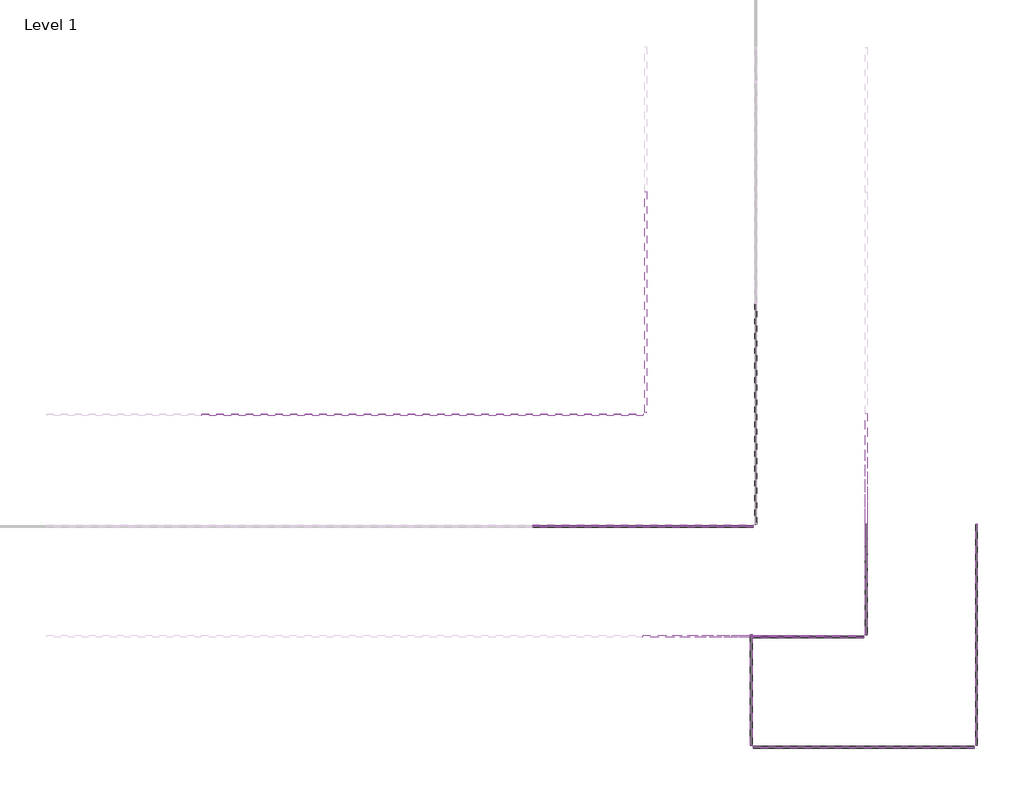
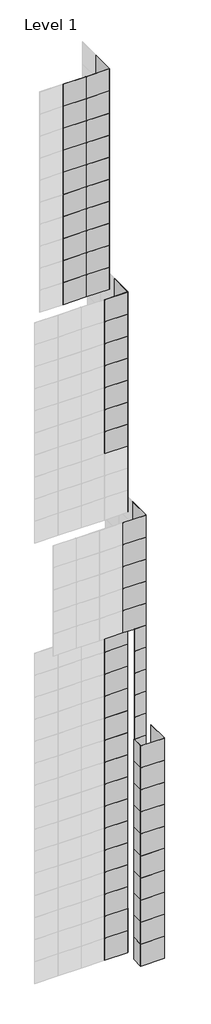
# One storey, part 3 of 15: 134 plates.
"""IFC4 building model written with IfcOpenShell, lengths in millimetres."""

from ifc_helpers import new_model, si_unit, origin, place, context, project, spatial, transform, mapped, element, save
from components import system_panel_glazed_9c75bc08, system_panel_glazed_0a0842ec, system_panel_glazed_aa64d645, system_panel_glazed_b248394d

model = new_model("IFC4")

# Units and contexts
model_context = context("Model", 3, world=origin())
ifc_project = project(units=[si_unit("LENGTHUNIT", "METRE", prefix="MILLI")], contexts=[model_context])

# Site, building, storey
site = spatial("IfcSite", under=ifc_project)
building = spatial("IfcBuilding", under=site)
storey = spatial("IfcBuildingStorey", under=building, Name="Level 1", Elevation=0.0)

# Plates
placement = place(None, origin())
system_panel_glazed_shape = system_panel_glazed_9c75bc08(model_context)
element("IfcPlate", 1, ObjectType="System Panel : Glazed", at=placement, inside=storey, context=model_context, shape_type="MappedRepresentation", body=[
    mapped(system_panel_glazed_shape, transform((-5599.4161695, -4980.0504489, 0.0), x_axis=(0.0, 1.0, 0.0), y_axis=(-1.0, 0.0, 0.0), z_axis=(0.0, 0.0, 1.0))),
])
element("IfcPlate", 2, ObjectType="System Panel : Glazed", at=placement, inside=storey, context=model_context, shape_type="MappedRepresentation", body=[
    mapped(system_panel_glazed_shape, transform((-5599.4161695, -4980.0504489, 3048.0), x_axis=(0.0, 1.0, 0.0), y_axis=(-1.0, 0.0, 0.0), z_axis=(0.0, 0.0, 1.0))),
])
element("IfcPlate", 3, ObjectType="System Panel : Glazed", at=placement, inside=storey, context=model_context, shape_type="MappedRepresentation", body=[
    mapped(system_panel_glazed_shape, transform((-5599.4161695, -4980.0504489, 6096.0), x_axis=(0.0, 1.0, 0.0), y_axis=(-1.0, 0.0, 0.0), z_axis=(0.0, 0.0, 1.0))),
])
element("IfcPlate", 4, ObjectType="System Panel : Glazed", at=placement, inside=storey, context=model_context, shape_type="MappedRepresentation", body=[
    mapped(system_panel_glazed_shape, transform((-5599.4161695, -4980.0504489, 9144.0), x_axis=(0.0, 1.0, 0.0), y_axis=(-1.0, 0.0, 0.0), z_axis=(0.0, 0.0, 1.0))),
])
element("IfcPlate", 5, ObjectType="System Panel : Glazed", at=placement, inside=storey, context=model_context, shape_type="MappedRepresentation", body=[
    mapped(system_panel_glazed_shape, transform((-5599.4161695, -4980.0504489, 12192.0), x_axis=(0.0, 1.0, 0.0), y_axis=(-1.0, 0.0, 0.0), z_axis=(0.0, 0.0, 1.0))),
])
element("IfcPlate", 6, ObjectType="System Panel : Glazed", at=placement, inside=storey, context=model_context, shape_type="MappedRepresentation", body=[
    mapped(system_panel_glazed_shape, transform((-5599.4161695, -4980.0504489, 15240.0), x_axis=(0.0, 1.0, 0.0), y_axis=(-1.0, 0.0, 0.0), z_axis=(0.0, 0.0, 1.0))),
])
element("IfcPlate", 7, ObjectType="System Panel : Glazed", at=placement, inside=storey, context=model_context, shape_type="MappedRepresentation", body=[
    mapped(system_panel_glazed_shape, transform((-5599.4161695, -4980.0504489, 18288.0), x_axis=(0.0, 1.0, 0.0), y_axis=(-1.0, 0.0, 0.0), z_axis=(0.0, 0.0, 1.0))),
])
element("IfcPlate", 8, ObjectType="System Panel : Glazed", at=placement, inside=storey, context=model_context, shape_type="MappedRepresentation", body=[
    mapped(system_panel_glazed_shape, transform((-5599.4161695, -4980.0504489, 21336.0), x_axis=(0.0, 1.0, 0.0), y_axis=(-1.0, 0.0, 0.0), z_axis=(0.0, 0.0, 1.0))),
])
element("IfcPlate", 9, ObjectType="System Panel : Glazed", at=placement, inside=storey, context=model_context, shape_type="MappedRepresentation", body=[
    mapped(system_panel_glazed_shape, transform((-5599.4161695, -4980.0504489, 24384.0), x_axis=(0.0, 1.0, 0.0), y_axis=(-1.0, 0.0, 0.0), z_axis=(0.0, 0.0, 1.0))),
])
element("IfcPlate", 10, ObjectType="System Panel : Glazed", at=placement, inside=storey, context=model_context, shape_type="MappedRepresentation", body=[
    mapped(system_panel_glazed_shape, transform((-5599.4161695, -4980.0504489, 27432.0), x_axis=(0.0, 1.0, 0.0), y_axis=(-1.0, 0.0, 0.0), z_axis=(0.0, 0.0, 1.0))),
])
element("IfcPlate", 11, ObjectType="System Panel : Glazed", at=placement, inside=storey, context=model_context, shape_type="MappedRepresentation", body=[
    mapped(system_panel_glazed_shape, transform((-5599.4161695, -4980.0504489, 30480.0), x_axis=(0.0, 1.0, 0.0), y_axis=(-1.0, 0.0, 0.0), z_axis=(0.0, 0.0, 1.0))),
])
element("IfcPlate", 12, ObjectType="System Panel : Glazed", at=placement, inside=storey, context=model_context, shape_type="MappedRepresentation", body=[
    mapped(system_panel_glazed_shape, transform((-5599.4161695, -4980.0504489, 33528.0), x_axis=(0.0, 1.0, 0.0), y_axis=(-1.0, 0.0, 0.0), z_axis=(0.0, 0.0, 1.0))),
])
element("IfcPlate", 13, ObjectType="System Panel : Glazed", at=placement, inside=storey, context=model_context, shape_type="MappedRepresentation", body=[
    mapped(system_panel_glazed_shape, transform((-5599.4161695, -4980.0504489, 36576.0), x_axis=(0.0, 1.0, 0.0), y_axis=(-1.0, 0.0, 0.0), z_axis=(0.0, 0.0, 1.0))),
])
element("IfcPlate", 14, ObjectType="System Panel : Glazed", at=placement, inside=storey, context=model_context, shape_type="MappedRepresentation", body=[
    mapped(system_panel_glazed_shape, transform((-5599.4161695, -4980.0504489, 39624.0), x_axis=(0.0, 1.0, 0.0), y_axis=(-1.0, 0.0, 0.0), z_axis=(0.0, 0.0, 1.0))),
])
element("IfcPlate", 15, ObjectType="System Panel : Glazed", at=placement, inside=storey, context=model_context, shape_type="MappedRepresentation", body=[
    mapped(system_panel_glazed_shape, transform((-5599.4161695, -4980.0504489, 42672.0), x_axis=(0.0, 1.0, 0.0), y_axis=(-1.0, 0.0, 0.0), z_axis=(0.0, 0.0, 1.0))),
])
element("IfcPlate", 16, ObjectType="System Panel : Glazed", at=placement, inside=storey, context=model_context, shape_type="MappedRepresentation", body=[
    mapped(system_panel_glazed_shape, transform((-6361.4161695, -5742.0504489, 0.0), x_axis=(1.0, 0.0, 0.0), y_axis=(0.0, 1.0, 0.0), z_axis=(0.0, 0.0, 1.0))),
])
element("IfcPlate", 17, ObjectType="System Panel : Glazed", at=placement, inside=storey, context=model_context, shape_type="MappedRepresentation", body=[
    mapped(system_panel_glazed_shape, transform((-6361.4161695, -5742.0504489, 3048.0), x_axis=(1.0, 0.0, 0.0), y_axis=(0.0, 1.0, 0.0), z_axis=(0.0, 0.0, 1.0))),
])
element("IfcPlate", 18, ObjectType="System Panel : Glazed", at=placement, inside=storey, context=model_context, shape_type="MappedRepresentation", body=[
    mapped(system_panel_glazed_shape, transform((-6361.4161695, -5742.0504489, 6096.0), x_axis=(1.0, 0.0, 0.0), y_axis=(0.0, 1.0, 0.0), z_axis=(0.0, 0.0, 1.0))),
])
element("IfcPlate", 19, ObjectType="System Panel : Glazed", at=placement, inside=storey, context=model_context, shape_type="MappedRepresentation", body=[
    mapped(system_panel_glazed_shape, transform((-6361.4161695, -5742.0504489, 9144.0), x_axis=(1.0, 0.0, 0.0), y_axis=(0.0, 1.0, 0.0), z_axis=(0.0, 0.0, 1.0))),
])
element("IfcPlate", 20, ObjectType="System Panel : Glazed", at=placement, inside=storey, context=model_context, shape_type="MappedRepresentation", body=[
    mapped(system_panel_glazed_shape, transform((-6361.4161695, -5742.0504489, 12192.0), x_axis=(1.0, 0.0, 0.0), y_axis=(0.0, 1.0, 0.0), z_axis=(0.0, 0.0, 1.0))),
])
element("IfcPlate", 21, ObjectType="System Panel : Glazed", at=placement, inside=storey, context=model_context, shape_type="MappedRepresentation", body=[
    mapped(system_panel_glazed_shape, transform((-6361.4161695, -5742.0504489, 15240.0), x_axis=(1.0, 0.0, 0.0), y_axis=(0.0, 1.0, 0.0), z_axis=(0.0, 0.0, 1.0))),
])
element("IfcPlate", 22, ObjectType="System Panel : Glazed", at=placement, inside=storey, context=model_context, shape_type="MappedRepresentation", body=[
    mapped(system_panel_glazed_shape, transform((-6361.4161695, -5742.0504489, 18288.0), x_axis=(1.0, 0.0, 0.0), y_axis=(0.0, 1.0, 0.0), z_axis=(0.0, 0.0, 1.0))),
])
element("IfcPlate", 23, ObjectType="System Panel : Glazed", at=placement, inside=storey, context=model_context, shape_type="MappedRepresentation", body=[
    mapped(system_panel_glazed_shape, transform((-6361.4161695, -5742.0504489, 21336.0), x_axis=(1.0, 0.0, 0.0), y_axis=(0.0, 1.0, 0.0), z_axis=(0.0, 0.0, 1.0))),
])
element("IfcPlate", 24, ObjectType="System Panel : Glazed", at=placement, inside=storey, context=model_context, shape_type="MappedRepresentation", body=[
    mapped(system_panel_glazed_shape, transform((-6361.4161695, -5742.0504489, 24384.0), x_axis=(1.0, 0.0, 0.0), y_axis=(0.0, 1.0, 0.0), z_axis=(0.0, 0.0, 1.0))),
])
element("IfcPlate", 25, ObjectType="System Panel : Glazed", at=placement, inside=storey, context=model_context, shape_type="MappedRepresentation", body=[
    mapped(system_panel_glazed_shape, transform((-6361.4161695, -5742.0504489, 27432.0), x_axis=(1.0, 0.0, 0.0), y_axis=(0.0, 1.0, 0.0), z_axis=(0.0, 0.0, 1.0))),
])
element("IfcPlate", 26, ObjectType="System Panel : Glazed", at=placement, inside=storey, context=model_context, shape_type="MappedRepresentation", body=[
    mapped(system_panel_glazed_shape, transform((-6361.4161695, -5742.0504489, 30480.0), x_axis=(1.0, 0.0, 0.0), y_axis=(0.0, 1.0, 0.0), z_axis=(0.0, 0.0, 1.0))),
])
element("IfcPlate", 27, ObjectType="System Panel : Glazed", at=placement, inside=storey, context=model_context, shape_type="MappedRepresentation", body=[
    mapped(system_panel_glazed_shape, transform((-6361.4161695, -5742.0504489, 33528.0), x_axis=(1.0, 0.0, 0.0), y_axis=(0.0, 1.0, 0.0), z_axis=(0.0, 0.0, 1.0))),
])
element("IfcPlate", 28, ObjectType="System Panel : Glazed", at=placement, inside=storey, context=model_context, shape_type="MappedRepresentation", body=[
    mapped(system_panel_glazed_shape, transform((-6361.4161695, -5742.0504489, 36576.0), x_axis=(1.0, 0.0, 0.0), y_axis=(0.0, 1.0, 0.0), z_axis=(0.0, 0.0, 1.0))),
])
element("IfcPlate", 29, ObjectType="System Panel : Glazed", at=placement, inside=storey, context=model_context, shape_type="MappedRepresentation", body=[
    mapped(system_panel_glazed_shape, transform((-6361.4161695, -5742.0504489, 39624.0), x_axis=(1.0, 0.0, 0.0), y_axis=(0.0, 1.0, 0.0), z_axis=(0.0, 0.0, 1.0))),
])
element("IfcPlate", 30, ObjectType="System Panel : Glazed", at=placement, inside=storey, context=model_context, shape_type="MappedRepresentation", body=[
    mapped(system_panel_glazed_shape, transform((-6361.4161695, -5742.0504489, 42672.0), x_axis=(1.0, 0.0, 0.0), y_axis=(0.0, 1.0, 0.0), z_axis=(0.0, 0.0, 1.0))),
])
element("IfcPlate", 31, ObjectType="System Panel : Glazed", at=placement, inside=storey, context=model_context, shape_type="MappedRepresentation", body=[
    mapped(system_panel_glazed_shape, transform((-7123.4161695, -6504.0504489, 0.0), x_axis=(0.0, -1.0, 0.0), y_axis=(1.0, 0.0, 0.0), z_axis=(0.0, 0.0, 1.0))),
])
element("IfcPlate", 32, ObjectType="System Panel : Glazed", at=placement, inside=storey, context=model_context, shape_type="MappedRepresentation", body=[
    mapped(system_panel_glazed_shape, transform((-7123.4161695, -6504.0504489, 3048.0), x_axis=(0.0, -1.0, 0.0), y_axis=(1.0, 0.0, 0.0), z_axis=(0.0, 0.0, 1.0))),
])
element("IfcPlate", 33, ObjectType="System Panel : Glazed", at=placement, inside=storey, context=model_context, shape_type="MappedRepresentation", body=[
    mapped(system_panel_glazed_shape, transform((-7123.4161695, -6504.0504489, 6096.0), x_axis=(0.0, -1.0, 0.0), y_axis=(1.0, 0.0, 0.0), z_axis=(0.0, 0.0, 1.0))),
])
element("IfcPlate", 34, ObjectType="System Panel : Glazed", at=placement, inside=storey, context=model_context, shape_type="MappedRepresentation", body=[
    mapped(system_panel_glazed_shape, transform((-7123.4161695, -6504.0504489, 9144.0), x_axis=(0.0, -1.0, 0.0), y_axis=(1.0, 0.0, 0.0), z_axis=(0.0, 0.0, 1.0))),
])
element("IfcPlate", 35, ObjectType="System Panel : Glazed", at=placement, inside=storey, context=model_context, shape_type="MappedRepresentation", body=[
    mapped(system_panel_glazed_shape, transform((-7123.4161695, -6504.0504489, 12192.0), x_axis=(0.0, -1.0, 0.0), y_axis=(1.0, 0.0, 0.0), z_axis=(0.0, 0.0, 1.0))),
])
element("IfcPlate", 36, ObjectType="System Panel : Glazed", at=placement, inside=storey, context=model_context, shape_type="MappedRepresentation", body=[
    mapped(system_panel_glazed_shape, transform((-7123.4161695, -6504.0504489, 15240.0), x_axis=(0.0, -1.0, 0.0), y_axis=(1.0, 0.0, 0.0), z_axis=(0.0, 0.0, 1.0))),
])
element("IfcPlate", 37, ObjectType="System Panel : Glazed", at=placement, inside=storey, context=model_context, shape_type="MappedRepresentation", body=[
    mapped(system_panel_glazed_shape, transform((-7123.4161695, -6504.0504489, 18288.0), x_axis=(0.0, -1.0, 0.0), y_axis=(1.0, 0.0, 0.0), z_axis=(0.0, 0.0, 1.0))),
])
element("IfcPlate", 38, ObjectType="System Panel : Glazed", at=placement, inside=storey, context=model_context, shape_type="MappedRepresentation", body=[
    mapped(system_panel_glazed_shape, transform((-7123.4161695, -6504.0504489, 21336.0), x_axis=(0.0, -1.0, 0.0), y_axis=(1.0, 0.0, 0.0), z_axis=(0.0, 0.0, 1.0))),
])
element("IfcPlate", 39, ObjectType="System Panel : Glazed", at=placement, inside=storey, context=model_context, shape_type="MappedRepresentation", body=[
    mapped(system_panel_glazed_shape, transform((-7123.4161695, -6504.0504489, 24384.0), x_axis=(0.0, -1.0, 0.0), y_axis=(1.0, 0.0, 0.0), z_axis=(0.0, 0.0, 1.0))),
])
element("IfcPlate", 40, ObjectType="System Panel : Glazed", at=placement, inside=storey, context=model_context, shape_type="MappedRepresentation", body=[
    mapped(system_panel_glazed_shape, transform((-7123.4161695, -6504.0504489, 27432.0), x_axis=(0.0, -1.0, 0.0), y_axis=(1.0, 0.0, 0.0), z_axis=(0.0, 0.0, 1.0))),
])
system_panel_glazed_2_shape = system_panel_glazed_0a0842ec(model_context)
element("IfcPlate", 41, ObjectType="System Panel : Glazed", at=placement, inside=storey, context=model_context, shape_type="MappedRepresentation", body=[
    mapped(system_panel_glazed_2_shape, transform((-5599.4161695, -4218.0504489, 45720.0), x_axis=(0.0, 1.0, 0.0), y_axis=(-1.0, 0.0, 0.0), z_axis=(0.0, 0.0, 1.0))),
])
element("IfcPlate", 42, ObjectType="System Panel : Glazed", at=placement, inside=storey, context=model_context, shape_type="MappedRepresentation", body=[
    mapped(system_panel_glazed_2_shape, transform((-7123.4161695, -5742.0504489, 45720.0), x_axis=(1.0, 0.0, 0.0), y_axis=(0.0, 1.0, 0.0), z_axis=(0.0, 0.0, 1.0))),
])
system_panel_glazed_3_shape = system_panel_glazed_aa64d645(model_context)
element("IfcPlate", 43, ObjectType="System Panel : Glazed", at=placement, inside=storey, context=model_context, shape_type="MappedRepresentation", body=[
    mapped(system_panel_glazed_3_shape, transform((-5599.4161695, -4218.0504489, 48768.0), x_axis=(0.0, 1.0, 0.0), y_axis=(-1.0, 0.0, 0.0), z_axis=(0.0, 0.0, 1.0))),
])
element("IfcPlate", 44, ObjectType="System Panel : Glazed", at=placement, inside=storey, context=model_context, shape_type="MappedRepresentation", body=[
    mapped(system_panel_glazed_3_shape, transform((-5599.4161695, -4218.0504489, 51816.0), x_axis=(0.0, 1.0, 0.0), y_axis=(-1.0, 0.0, 0.0), z_axis=(0.0, 0.0, 1.0))),
])
element("IfcPlate", 45, ObjectType="System Panel : Glazed", at=placement, inside=storey, context=model_context, shape_type="MappedRepresentation", body=[
    mapped(system_panel_glazed_3_shape, transform((-5599.4161695, -4218.0504489, 54864.0), x_axis=(0.0, 1.0, 0.0), y_axis=(-1.0, 0.0, 0.0), z_axis=(0.0, 0.0, 1.0))),
])
element("IfcPlate", 46, ObjectType="System Panel : Glazed", at=placement, inside=storey, context=model_context, shape_type="MappedRepresentation", body=[
    mapped(system_panel_glazed_3_shape, transform((-5599.4161695, -4218.0504489, 57912.0), x_axis=(0.0, 1.0, 0.0), y_axis=(-1.0, 0.0, 0.0), z_axis=(0.0, 0.0, 1.0))),
])
element("IfcPlate", 47, ObjectType="System Panel : Glazed", at=placement, inside=storey, context=model_context, shape_type="MappedRepresentation", body=[
    mapped(system_panel_glazed_3_shape, transform((-7123.4161695, -5742.0504489, 48768.0), x_axis=(1.0, 0.0, 0.0), y_axis=(0.0, 1.0, 0.0), z_axis=(0.0, 0.0, 1.0))),
])
element("IfcPlate", 48, ObjectType="System Panel : Glazed", at=placement, inside=storey, context=model_context, shape_type="MappedRepresentation", body=[
    mapped(system_panel_glazed_3_shape, transform((-7123.4161695, -5742.0504489, 51816.0), x_axis=(1.0, 0.0, 0.0), y_axis=(0.0, 1.0, 0.0), z_axis=(0.0, 0.0, 1.0))),
])
element("IfcPlate", 49, ObjectType="System Panel : Glazed", at=placement, inside=storey, context=model_context, shape_type="MappedRepresentation", body=[
    mapped(system_panel_glazed_3_shape, transform((-7123.4161695, -5742.0504489, 54864.0), x_axis=(1.0, 0.0, 0.0), y_axis=(0.0, 1.0, 0.0), z_axis=(0.0, 0.0, 1.0))),
])
element("IfcPlate", 50, ObjectType="System Panel : Glazed", at=placement, inside=storey, context=model_context, shape_type="MappedRepresentation", body=[
    mapped(system_panel_glazed_3_shape, transform((-7123.4161695, -5742.0504489, 57912.0), x_axis=(1.0, 0.0, 0.0), y_axis=(0.0, 1.0, 0.0), z_axis=(0.0, 0.0, 1.0))),
])
element("IfcPlate", 51, ObjectType="System Panel : Glazed", at=placement, inside=storey, context=model_context, shape_type="MappedRepresentation", body=[
    mapped(system_panel_glazed_3_shape, transform((-7123.4161695, -2694.0504489, 60960.0), x_axis=(0.0, 1.0, 0.0), y_axis=(-1.0, 0.0, 0.0), z_axis=(0.0, 0.0, 1.0))),
])
element("IfcPlate", 52, ObjectType="System Panel : Glazed", at=placement, inside=storey, context=model_context, shape_type="MappedRepresentation", body=[
    mapped(system_panel_glazed_3_shape, transform((-7123.4161695, -2694.0504489, 64008.0), x_axis=(0.0, 1.0, 0.0), y_axis=(-1.0, 0.0, 0.0), z_axis=(0.0, 0.0, 1.0))),
])
element("IfcPlate", 53, ObjectType="System Panel : Glazed", at=placement, inside=storey, context=model_context, shape_type="MappedRepresentation", body=[
    mapped(system_panel_glazed_3_shape, transform((-7123.4161695, -2694.0504489, 67056.0), x_axis=(0.0, 1.0, 0.0), y_axis=(-1.0, 0.0, 0.0), z_axis=(0.0, 0.0, 1.0))),
])
element("IfcPlate", 54, ObjectType="System Panel : Glazed", at=placement, inside=storey, context=model_context, shape_type="MappedRepresentation", body=[
    mapped(system_panel_glazed_3_shape, transform((-7123.4161695, -2694.0504489, 70104.0), x_axis=(0.0, 1.0, 0.0), y_axis=(-1.0, 0.0, 0.0), z_axis=(0.0, 0.0, 1.0))),
])
element("IfcPlate", 55, ObjectType="System Panel : Glazed", at=placement, inside=storey, context=model_context, shape_type="MappedRepresentation", body=[
    mapped(system_panel_glazed_3_shape, transform((-7123.4161695, -2694.0504489, 73152.0), x_axis=(0.0, 1.0, 0.0), y_axis=(-1.0, 0.0, 0.0), z_axis=(0.0, 0.0, 1.0))),
])
element("IfcPlate", 56, ObjectType="System Panel : Glazed", at=placement, inside=storey, context=model_context, shape_type="MappedRepresentation", body=[
    mapped(system_panel_glazed_3_shape, transform((-7123.4161695, -2694.0504489, 76200.0), x_axis=(0.0, 1.0, 0.0), y_axis=(-1.0, 0.0, 0.0), z_axis=(0.0, 0.0, 1.0))),
])
element("IfcPlate", 57, ObjectType="System Panel : Glazed", at=placement, inside=storey, context=model_context, shape_type="MappedRepresentation", body=[
    mapped(system_panel_glazed_3_shape, transform((-7123.4161695, -2694.0504489, 79248.0), x_axis=(0.0, 1.0, 0.0), y_axis=(-1.0, 0.0, 0.0), z_axis=(0.0, 0.0, 1.0))),
])
element("IfcPlate", 58, ObjectType="System Panel : Glazed", at=placement, inside=storey, context=model_context, shape_type="MappedRepresentation", body=[
    mapped(system_panel_glazed_3_shape, transform((-7123.4161695, -2694.0504489, 82296.0), x_axis=(0.0, 1.0, 0.0), y_axis=(-1.0, 0.0, 0.0), z_axis=(0.0, 0.0, 1.0))),
])
element("IfcPlate", 59, ObjectType="System Panel : Glazed", at=placement, inside=storey, context=model_context, shape_type="MappedRepresentation", body=[
    mapped(system_panel_glazed_3_shape, transform((-7123.4161695, -2694.0504489, 85344.0), x_axis=(0.0, 1.0, 0.0), y_axis=(-1.0, 0.0, 0.0), z_axis=(0.0, 0.0, 1.0))),
])
element("IfcPlate", 60, ObjectType="System Panel : Glazed", at=placement, inside=storey, context=model_context, shape_type="MappedRepresentation", body=[
    mapped(system_panel_glazed_3_shape, transform((-7123.4161695, -2694.0504489, 88392.0), x_axis=(0.0, 1.0, 0.0), y_axis=(-1.0, 0.0, 0.0), z_axis=(0.0, 0.0, 1.0))),
])
element("IfcPlate", 61, ObjectType="System Panel : Glazed", at=placement, inside=storey, context=model_context, shape_type="MappedRepresentation", body=[
    mapped(system_panel_glazed_3_shape, transform((-8647.4161695, -4218.0504489, 70104.0), x_axis=(1.0, 0.0, 0.0), y_axis=(0.0, 1.0, 0.0), z_axis=(0.0, 0.0, 1.0))),
])
element("IfcPlate", 62, ObjectType="System Panel : Glazed", at=placement, inside=storey, context=model_context, shape_type="MappedRepresentation", body=[
    mapped(system_panel_glazed_3_shape, transform((-8647.4161695, -4218.0504489, 73152.0), x_axis=(1.0, 0.0, 0.0), y_axis=(0.0, 1.0, 0.0), z_axis=(0.0, 0.0, 1.0))),
])
element("IfcPlate", 63, ObjectType="System Panel : Glazed", at=placement, inside=storey, context=model_context, shape_type="MappedRepresentation", body=[
    mapped(system_panel_glazed_3_shape, transform((-8647.4161695, -4218.0504489, 76200.0), x_axis=(1.0, 0.0, 0.0), y_axis=(0.0, 1.0, 0.0), z_axis=(0.0, 0.0, 1.0))),
])
element("IfcPlate", 64, ObjectType="System Panel : Glazed", at=placement, inside=storey, context=model_context, shape_type="MappedRepresentation", body=[
    mapped(system_panel_glazed_3_shape, transform((-8647.4161695, -4218.0504489, 79248.0), x_axis=(1.0, 0.0, 0.0), y_axis=(0.0, 1.0, 0.0), z_axis=(0.0, 0.0, 1.0))),
])
element("IfcPlate", 65, ObjectType="System Panel : Glazed", at=placement, inside=storey, context=model_context, shape_type="MappedRepresentation", body=[
    mapped(system_panel_glazed_3_shape, transform((-8647.4161695, -4218.0504489, 82296.0), x_axis=(1.0, 0.0, 0.0), y_axis=(0.0, 1.0, 0.0), z_axis=(0.0, 0.0, 1.0))),
])
element("IfcPlate", 66, ObjectType="System Panel : Glazed", at=placement, inside=storey, context=model_context, shape_type="MappedRepresentation", body=[
    mapped(system_panel_glazed_3_shape, transform((-8647.4161695, -4218.0504489, 85344.0), x_axis=(1.0, 0.0, 0.0), y_axis=(0.0, 1.0, 0.0), z_axis=(0.0, 0.0, 1.0))),
])
element("IfcPlate", 67, ObjectType="System Panel : Glazed", at=placement, inside=storey, context=model_context, shape_type="MappedRepresentation", body=[
    mapped(system_panel_glazed_3_shape, transform((-8647.4161695, -4218.0504489, 88392.0), x_axis=(1.0, 0.0, 0.0), y_axis=(0.0, 1.0, 0.0), z_axis=(0.0, 0.0, 1.0))),
])
element("IfcPlate", 68, ObjectType="System Panel : Glazed", at=placement, inside=storey, context=model_context, shape_type="MappedRepresentation", body=[
    mapped(system_panel_glazed_3_shape, transform((-8641.8488996, -1170.0504489, 91440.0), x_axis=(0.0, 1.0, 0.0), y_axis=(-1.0, 0.0, 0.0), z_axis=(0.0, 0.0, 1.0))),
])
element("IfcPlate", 69, ObjectType="System Panel : Glazed", at=placement, inside=storey, context=model_context, shape_type="MappedRepresentation", body=[
    mapped(system_panel_glazed_3_shape, transform((-8641.8488996, -1170.0504489, 94488.0), x_axis=(0.0, 1.0, 0.0), y_axis=(-1.0, 0.0, 0.0), z_axis=(0.0, 0.0, 1.0))),
])
element("IfcPlate", 70, ObjectType="System Panel : Glazed", at=placement, inside=storey, context=model_context, shape_type="MappedRepresentation", body=[
    mapped(system_panel_glazed_3_shape, transform((-8641.8488996, -1170.0504489, 97536.0), x_axis=(0.0, 1.0, 0.0), y_axis=(-1.0, 0.0, 0.0), z_axis=(0.0, 0.0, 1.0))),
])
element("IfcPlate", 71, ObjectType="System Panel : Glazed", at=placement, inside=storey, context=model_context, shape_type="MappedRepresentation", body=[
    mapped(system_panel_glazed_3_shape, transform((-8641.8488996, -1170.0504489, 100584.0), x_axis=(0.0, 1.0, 0.0), y_axis=(-1.0, 0.0, 0.0), z_axis=(0.0, 0.0, 1.0))),
])
element("IfcPlate", 72, ObjectType="System Panel : Glazed", at=placement, inside=storey, context=model_context, shape_type="MappedRepresentation", body=[
    mapped(system_panel_glazed_3_shape, transform((-8641.8488996, -1170.0504489, 103632.0), x_axis=(0.0, 1.0, 0.0), y_axis=(-1.0, 0.0, 0.0), z_axis=(0.0, 0.0, 1.0))),
])
element("IfcPlate", 73, ObjectType="System Panel : Glazed", at=placement, inside=storey, context=model_context, shape_type="MappedRepresentation", body=[
    mapped(system_panel_glazed_3_shape, transform((-8641.8488996, -1170.0504489, 106680.0), x_axis=(0.0, 1.0, 0.0), y_axis=(-1.0, 0.0, 0.0), z_axis=(0.0, 0.0, 1.0))),
])
element("IfcPlate", 74, ObjectType="System Panel : Glazed", at=placement, inside=storey, context=model_context, shape_type="MappedRepresentation", body=[
    mapped(system_panel_glazed_3_shape, transform((-8641.8488996, -1170.0504489, 109728.0), x_axis=(0.0, 1.0, 0.0), y_axis=(-1.0, 0.0, 0.0), z_axis=(0.0, 0.0, 1.0))),
])
element("IfcPlate", 75, ObjectType="System Panel : Glazed", at=placement, inside=storey, context=model_context, shape_type="MappedRepresentation", body=[
    mapped(system_panel_glazed_3_shape, transform((-8641.8488996, -1170.0504489, 112776.0), x_axis=(0.0, 1.0, 0.0), y_axis=(-1.0, 0.0, 0.0), z_axis=(0.0, 0.0, 1.0))),
])
element("IfcPlate", 76, ObjectType="System Panel : Glazed", at=placement, inside=storey, context=model_context, shape_type="MappedRepresentation", body=[
    mapped(system_panel_glazed_3_shape, transform((-8641.8488996, -1170.0504489, 115824.0), x_axis=(0.0, 1.0, 0.0), y_axis=(-1.0, 0.0, 0.0), z_axis=(0.0, 0.0, 1.0))),
])
element("IfcPlate", 77, ObjectType="System Panel : Glazed", at=placement, inside=storey, context=model_context, shape_type="MappedRepresentation", body=[
    mapped(system_panel_glazed_3_shape, transform((-8641.8488996, -1170.0504489, 118872.0), x_axis=(0.0, 1.0, 0.0), y_axis=(-1.0, 0.0, 0.0), z_axis=(0.0, 0.0, 1.0))),
])
element("IfcPlate", 78, ObjectType="System Panel : Glazed", at=placement, inside=storey, context=model_context, shape_type="MappedRepresentation", body=[
    mapped(system_panel_glazed_3_shape, transform((-13213.8488996, -2694.0504489, 91440.0), x_axis=(1.0, 0.0, 0.0), y_axis=(0.0, 1.0, 0.0), z_axis=(0.0, 0.0, 1.0))),
])
element("IfcPlate", 79, ObjectType="System Panel : Glazed", at=placement, inside=storey, context=model_context, shape_type="MappedRepresentation", body=[
    mapped(system_panel_glazed_3_shape, transform((-10165.8488996, -2694.0504489, 91440.0), x_axis=(1.0, 0.0, 0.0), y_axis=(0.0, 1.0, 0.0), z_axis=(0.0, 0.0, 1.0))),
])
element("IfcPlate", 80, ObjectType="System Panel : Glazed", at=placement, inside=storey, context=model_context, shape_type="MappedRepresentation", body=[
    mapped(system_panel_glazed_3_shape, transform((-13213.8488996, -2694.0504489, 94488.0), x_axis=(1.0, 0.0, 0.0), y_axis=(0.0, 1.0, 0.0), z_axis=(0.0, 0.0, 1.0))),
])
element("IfcPlate", 81, ObjectType="System Panel : Glazed", at=placement, inside=storey, context=model_context, shape_type="MappedRepresentation", body=[
    mapped(system_panel_glazed_3_shape, transform((-10165.8488996, -2694.0504489, 94488.0), x_axis=(1.0, 0.0, 0.0), y_axis=(0.0, 1.0, 0.0), z_axis=(0.0, 0.0, 1.0))),
])
element("IfcPlate", 82, ObjectType="System Panel : Glazed", at=placement, inside=storey, context=model_context, shape_type="MappedRepresentation", body=[
    mapped(system_panel_glazed_3_shape, transform((-13213.8488996, -2694.0504489, 97536.0), x_axis=(1.0, 0.0, 0.0), y_axis=(0.0, 1.0, 0.0), z_axis=(0.0, 0.0, 1.0))),
])
element("IfcPlate", 83, ObjectType="System Panel : Glazed", at=placement, inside=storey, context=model_context, shape_type="MappedRepresentation", body=[
    mapped(system_panel_glazed_3_shape, transform((-10165.8488996, -2694.0504489, 97536.0), x_axis=(1.0, 0.0, 0.0), y_axis=(0.0, 1.0, 0.0), z_axis=(0.0, 0.0, 1.0))),
])
element("IfcPlate", 84, ObjectType="System Panel : Glazed", at=placement, inside=storey, context=model_context, shape_type="MappedRepresentation", body=[
    mapped(system_panel_glazed_3_shape, transform((-13213.8488996, -2694.0504489, 100584.0), x_axis=(1.0, 0.0, 0.0), y_axis=(0.0, 1.0, 0.0), z_axis=(0.0, 0.0, 1.0))),
])
element("IfcPlate", 85, ObjectType="System Panel : Glazed", at=placement, inside=storey, context=model_context, shape_type="MappedRepresentation", body=[
    mapped(system_panel_glazed_3_shape, transform((-10165.8488996, -2694.0504489, 100584.0), x_axis=(1.0, 0.0, 0.0), y_axis=(0.0, 1.0, 0.0), z_axis=(0.0, 0.0, 1.0))),
])
element("IfcPlate", 86, ObjectType="System Panel : Glazed", at=placement, inside=storey, context=model_context, shape_type="MappedRepresentation", body=[
    mapped(system_panel_glazed_3_shape, transform((-13213.8488996, -2694.0504489, 103632.0), x_axis=(1.0, 0.0, 0.0), y_axis=(0.0, 1.0, 0.0), z_axis=(0.0, 0.0, 1.0))),
])
element("IfcPlate", 87, ObjectType="System Panel : Glazed", at=placement, inside=storey, context=model_context, shape_type="MappedRepresentation", body=[
    mapped(system_panel_glazed_3_shape, transform((-10165.8488996, -2694.0504489, 103632.0), x_axis=(1.0, 0.0, 0.0), y_axis=(0.0, 1.0, 0.0), z_axis=(0.0, 0.0, 1.0))),
])
element("IfcPlate", 88, ObjectType="System Panel : Glazed", at=placement, inside=storey, context=model_context, shape_type="MappedRepresentation", body=[
    mapped(system_panel_glazed_3_shape, transform((-13213.8488996, -2694.0504489, 106680.0), x_axis=(1.0, 0.0, 0.0), y_axis=(0.0, 1.0, 0.0), z_axis=(0.0, 0.0, 1.0))),
])
element("IfcPlate", 89, ObjectType="System Panel : Glazed", at=placement, inside=storey, context=model_context, shape_type="MappedRepresentation", body=[
    mapped(system_panel_glazed_3_shape, transform((-10165.8488996, -2694.0504489, 106680.0), x_axis=(1.0, 0.0, 0.0), y_axis=(0.0, 1.0, 0.0), z_axis=(0.0, 0.0, 1.0))),
])
element("IfcPlate", 90, ObjectType="System Panel : Glazed", at=placement, inside=storey, context=model_context, shape_type="MappedRepresentation", body=[
    mapped(system_panel_glazed_3_shape, transform((-13213.8488996, -2694.0504489, 109728.0), x_axis=(1.0, 0.0, 0.0), y_axis=(0.0, 1.0, 0.0), z_axis=(0.0, 0.0, 1.0))),
])
element("IfcPlate", 91, ObjectType="System Panel : Glazed", at=placement, inside=storey, context=model_context, shape_type="MappedRepresentation", body=[
    mapped(system_panel_glazed_3_shape, transform((-10165.8488996, -2694.0504489, 109728.0), x_axis=(1.0, 0.0, 0.0), y_axis=(0.0, 1.0, 0.0), z_axis=(0.0, 0.0, 1.0))),
])
element("IfcPlate", 92, ObjectType="System Panel : Glazed", at=placement, inside=storey, context=model_context, shape_type="MappedRepresentation", body=[
    mapped(system_panel_glazed_3_shape, transform((-13213.8488996, -2694.0504489, 112776.0), x_axis=(1.0, 0.0, 0.0), y_axis=(0.0, 1.0, 0.0), z_axis=(0.0, 0.0, 1.0))),
])
element("IfcPlate", 93, ObjectType="System Panel : Glazed", at=placement, inside=storey, context=model_context, shape_type="MappedRepresentation", body=[
    mapped(system_panel_glazed_3_shape, transform((-10165.8488996, -2694.0504489, 112776.0), x_axis=(1.0, 0.0, 0.0), y_axis=(0.0, 1.0, 0.0), z_axis=(0.0, 0.0, 1.0))),
])
element("IfcPlate", 94, ObjectType="System Panel : Glazed", at=placement, inside=storey, context=model_context, shape_type="MappedRepresentation", body=[
    mapped(system_panel_glazed_3_shape, transform((-13213.8488996, -2694.0504489, 115824.0), x_axis=(1.0, 0.0, 0.0), y_axis=(0.0, 1.0, 0.0), z_axis=(0.0, 0.0, 1.0))),
])
element("IfcPlate", 95, ObjectType="System Panel : Glazed", at=placement, inside=storey, context=model_context, shape_type="MappedRepresentation", body=[
    mapped(system_panel_glazed_3_shape, transform((-10165.8488996, -2694.0504489, 115824.0), x_axis=(1.0, 0.0, 0.0), y_axis=(0.0, 1.0, 0.0), z_axis=(0.0, 0.0, 1.0))),
])
element("IfcPlate", 96, ObjectType="System Panel : Glazed", at=placement, inside=storey, context=model_context, shape_type="MappedRepresentation", body=[
    mapped(system_panel_glazed_3_shape, transform((-13213.8488996, -2694.0504489, 118872.0), x_axis=(1.0, 0.0, 0.0), y_axis=(0.0, 1.0, 0.0), z_axis=(0.0, 0.0, 1.0))),
])
element("IfcPlate", 97, ObjectType="System Panel : Glazed", at=placement, inside=storey, context=model_context, shape_type="MappedRepresentation", body=[
    mapped(system_panel_glazed_3_shape, transform((-10165.8488996, -2694.0504489, 118872.0), x_axis=(1.0, 0.0, 0.0), y_axis=(0.0, 1.0, 0.0), z_axis=(0.0, 0.0, 1.0))),
])
element("IfcPlate", 98, ObjectType="System Panel : Glazed", at=placement, inside=storey, context=model_context, shape_type="MappedRepresentation", body=[
    mapped(system_panel_glazed_3_shape, transform((-4075.4161695, -5742.0504489, 0.0), x_axis=(0.0, 1.0, 0.0), y_axis=(-1.0, 0.0, 0.0), z_axis=(0.0, 0.0, 1.0))),
])
element("IfcPlate", 99, ObjectType="System Panel : Glazed", at=placement, inside=storey, context=model_context, shape_type="MappedRepresentation", body=[
    mapped(system_panel_glazed_3_shape, transform((-4075.4161695, -5742.0504489, 3048.0), x_axis=(0.0, 1.0, 0.0), y_axis=(-1.0, 0.0, 0.0), z_axis=(0.0, 0.0, 1.0))),
])
element("IfcPlate", 100, ObjectType="System Panel : Glazed", at=placement, inside=storey, context=model_context, shape_type="MappedRepresentation", body=[
    mapped(system_panel_glazed_3_shape, transform((-4075.4161695, -5742.0504489, 6096.0), x_axis=(0.0, 1.0, 0.0), y_axis=(-1.0, 0.0, 0.0), z_axis=(0.0, 0.0, 1.0))),
])
element("IfcPlate", 101, ObjectType="System Panel : Glazed", at=placement, inside=storey, context=model_context, shape_type="MappedRepresentation", body=[
    mapped(system_panel_glazed_3_shape, transform((-4075.4161695, -5742.0504489, 9144.0), x_axis=(0.0, 1.0, 0.0), y_axis=(-1.0, 0.0, 0.0), z_axis=(0.0, 0.0, 1.0))),
])
element("IfcPlate", 102, ObjectType="System Panel : Glazed", at=placement, inside=storey, context=model_context, shape_type="MappedRepresentation", body=[
    mapped(system_panel_glazed_3_shape, transform((-4075.4161695, -5742.0504489, 12192.0), x_axis=(0.0, 1.0, 0.0), y_axis=(-1.0, 0.0, 0.0), z_axis=(0.0, 0.0, 1.0))),
])
element("IfcPlate", 103, ObjectType="System Panel : Glazed", at=placement, inside=storey, context=model_context, shape_type="MappedRepresentation", body=[
    mapped(system_panel_glazed_3_shape, transform((-4075.4161695, -5742.0504489, 15240.0), x_axis=(0.0, 1.0, 0.0), y_axis=(-1.0, 0.0, 0.0), z_axis=(0.0, 0.0, 1.0))),
])
element("IfcPlate", 104, ObjectType="System Panel : Glazed", at=placement, inside=storey, context=model_context, shape_type="MappedRepresentation", body=[
    mapped(system_panel_glazed_3_shape, transform((-4075.4161695, -5742.0504489, 18288.0), x_axis=(0.0, 1.0, 0.0), y_axis=(-1.0, 0.0, 0.0), z_axis=(0.0, 0.0, 1.0))),
])
element("IfcPlate", 105, ObjectType="System Panel : Glazed", at=placement, inside=storey, context=model_context, shape_type="MappedRepresentation", body=[
    mapped(system_panel_glazed_3_shape, transform((-4075.4161695, -5742.0504489, 21336.0), x_axis=(0.0, 1.0, 0.0), y_axis=(-1.0, 0.0, 0.0), z_axis=(0.0, 0.0, 1.0))),
])
element("IfcPlate", 106, ObjectType="System Panel : Glazed", at=placement, inside=storey, context=model_context, shape_type="MappedRepresentation", body=[
    mapped(system_panel_glazed_3_shape, transform((-4075.4161695, -5742.0504489, 24384.0), x_axis=(0.0, 1.0, 0.0), y_axis=(-1.0, 0.0, 0.0), z_axis=(0.0, 0.0, 1.0))),
])
element("IfcPlate", 107, ObjectType="System Panel : Glazed", at=placement, inside=storey, context=model_context, shape_type="MappedRepresentation", body=[
    mapped(system_panel_glazed_3_shape, transform((-4075.4161695, -5742.0504489, 27432.0), x_axis=(0.0, 1.0, 0.0), y_axis=(-1.0, 0.0, 0.0), z_axis=(0.0, 0.0, 1.0))),
])
element("IfcPlate", 108, ObjectType="System Panel : Glazed", at=placement, inside=storey, context=model_context, shape_type="MappedRepresentation", body=[
    mapped(system_panel_glazed_3_shape, transform((-5599.4161695, -7266.0504489, 0.0), x_axis=(1.0, 0.0, 0.0), y_axis=(0.0, 1.0, 0.0), z_axis=(0.0, 0.0, 1.0))),
])
element("IfcPlate", 109, ObjectType="System Panel : Glazed", at=placement, inside=storey, context=model_context, shape_type="MappedRepresentation", body=[
    mapped(system_panel_glazed_3_shape, transform((-5599.4161695, -7266.0504489, 3048.0), x_axis=(1.0, 0.0, 0.0), y_axis=(0.0, 1.0, 0.0), z_axis=(0.0, 0.0, 1.0))),
])
element("IfcPlate", 110, ObjectType="System Panel : Glazed", at=placement, inside=storey, context=model_context, shape_type="MappedRepresentation", body=[
    mapped(system_panel_glazed_3_shape, transform((-5599.4161695, -7266.0504489, 6096.0), x_axis=(1.0, 0.0, 0.0), y_axis=(0.0, 1.0, 0.0), z_axis=(0.0, 0.0, 1.0))),
])
element("IfcPlate", 111, ObjectType="System Panel : Glazed", at=placement, inside=storey, context=model_context, shape_type="MappedRepresentation", body=[
    mapped(system_panel_glazed_3_shape, transform((-5599.4161695, -7266.0504489, 9144.0), x_axis=(1.0, 0.0, 0.0), y_axis=(0.0, 1.0, 0.0), z_axis=(0.0, 0.0, 1.0))),
])
element("IfcPlate", 112, ObjectType="System Panel : Glazed", at=placement, inside=storey, context=model_context, shape_type="MappedRepresentation", body=[
    mapped(system_panel_glazed_3_shape, transform((-5599.4161695, -7266.0504489, 12192.0), x_axis=(1.0, 0.0, 0.0), y_axis=(0.0, 1.0, 0.0), z_axis=(0.0, 0.0, 1.0))),
])
element("IfcPlate", 113, ObjectType="System Panel : Glazed", at=placement, inside=storey, context=model_context, shape_type="MappedRepresentation", body=[
    mapped(system_panel_glazed_3_shape, transform((-5599.4161695, -7266.0504489, 15240.0), x_axis=(1.0, 0.0, 0.0), y_axis=(0.0, 1.0, 0.0), z_axis=(0.0, 0.0, 1.0))),
])
element("IfcPlate", 114, ObjectType="System Panel : Glazed", at=placement, inside=storey, context=model_context, shape_type="MappedRepresentation", body=[
    mapped(system_panel_glazed_3_shape, transform((-5599.4161695, -7266.0504489, 18288.0), x_axis=(1.0, 0.0, 0.0), y_axis=(0.0, 1.0, 0.0), z_axis=(0.0, 0.0, 1.0))),
])
element("IfcPlate", 115, ObjectType="System Panel : Glazed", at=placement, inside=storey, context=model_context, shape_type="MappedRepresentation", body=[
    mapped(system_panel_glazed_3_shape, transform((-5599.4161695, -7266.0504489, 21336.0), x_axis=(1.0, 0.0, 0.0), y_axis=(0.0, 1.0, 0.0), z_axis=(0.0, 0.0, 1.0))),
])
element("IfcPlate", 116, ObjectType="System Panel : Glazed", at=placement, inside=storey, context=model_context, shape_type="MappedRepresentation", body=[
    mapped(system_panel_glazed_3_shape, transform((-5599.4161695, -7266.0504489, 24384.0), x_axis=(1.0, 0.0, 0.0), y_axis=(0.0, 1.0, 0.0), z_axis=(0.0, 0.0, 1.0))),
])
element("IfcPlate", 117, ObjectType="System Panel : Glazed", at=placement, inside=storey, context=model_context, shape_type="MappedRepresentation", body=[
    mapped(system_panel_glazed_3_shape, transform((-5599.4161695, -7266.0504489, 27432.0), x_axis=(1.0, 0.0, 0.0), y_axis=(0.0, 1.0, 0.0), z_axis=(0.0, 0.0, 1.0))),
])
system_panel_glazed_4_shape = system_panel_glazed_b248394d(model_context)
element("IfcPlate", 118, ObjectType="System Panel : Glazed", at=placement, inside=storey, context=model_context, shape_type="MappedRepresentation", body=[
    mapped(system_panel_glazed_4_shape, transform((-8647.4161695, -4218.0504489, 0.0), x_axis=(-1.0, 0.0, 0.0), y_axis=(0.0, -1.0, 0.0), z_axis=(0.0, 0.0, 1.0))),
])
element("IfcPlate", 119, ObjectType="System Panel : Glazed", at=placement, inside=storey, context=model_context, shape_type="MappedRepresentation", body=[
    mapped(system_panel_glazed_4_shape, transform((-8647.4161695, -4218.0504489, 3048.0), x_axis=(-1.0, 0.0, 0.0), y_axis=(0.0, -1.0, 0.0), z_axis=(0.0, 0.0, 1.0))),
])
element("IfcPlate", 120, ObjectType="System Panel : Glazed", at=placement, inside=storey, context=model_context, shape_type="MappedRepresentation", body=[
    mapped(system_panel_glazed_4_shape, transform((-8647.4161695, -4218.0504489, 6096.0), x_axis=(-1.0, 0.0, 0.0), y_axis=(0.0, -1.0, 0.0), z_axis=(0.0, 0.0, 1.0))),
])
element("IfcPlate", 121, ObjectType="System Panel : Glazed", at=placement, inside=storey, context=model_context, shape_type="MappedRepresentation", body=[
    mapped(system_panel_glazed_4_shape, transform((-8647.4161695, -4218.0504489, 9144.0), x_axis=(-1.0, 0.0, 0.0), y_axis=(0.0, -1.0, 0.0), z_axis=(0.0, 0.0, 1.0))),
])
element("IfcPlate", 122, ObjectType="System Panel : Glazed", at=placement, inside=storey, context=model_context, shape_type="MappedRepresentation", body=[
    mapped(system_panel_glazed_4_shape, transform((-8647.4161695, -4218.0504489, 12192.0), x_axis=(-1.0, 0.0, 0.0), y_axis=(0.0, -1.0, 0.0), z_axis=(0.0, 0.0, 1.0))),
])
element("IfcPlate", 123, ObjectType="System Panel : Glazed", at=placement, inside=storey, context=model_context, shape_type="MappedRepresentation", body=[
    mapped(system_panel_glazed_4_shape, transform((-8647.4161695, -4218.0504489, 15240.0), x_axis=(-1.0, 0.0, 0.0), y_axis=(0.0, -1.0, 0.0), z_axis=(0.0, 0.0, 1.0))),
])
element("IfcPlate", 124, ObjectType="System Panel : Glazed", at=placement, inside=storey, context=model_context, shape_type="MappedRepresentation", body=[
    mapped(system_panel_glazed_4_shape, transform((-8647.4161695, -4218.0504489, 18288.0), x_axis=(-1.0, 0.0, 0.0), y_axis=(0.0, -1.0, 0.0), z_axis=(0.0, 0.0, 1.0))),
])
element("IfcPlate", 125, ObjectType="System Panel : Glazed", at=placement, inside=storey, context=model_context, shape_type="MappedRepresentation", body=[
    mapped(system_panel_glazed_4_shape, transform((-8647.4161695, -4218.0504489, 21336.0), x_axis=(-1.0, 0.0, 0.0), y_axis=(0.0, -1.0, 0.0), z_axis=(0.0, 0.0, 1.0))),
])
element("IfcPlate", 126, ObjectType="System Panel : Glazed", at=placement, inside=storey, context=model_context, shape_type="MappedRepresentation", body=[
    mapped(system_panel_glazed_4_shape, transform((-8647.4161695, -4218.0504489, 24384.0), x_axis=(-1.0, 0.0, 0.0), y_axis=(0.0, -1.0, 0.0), z_axis=(0.0, 0.0, 1.0))),
])
element("IfcPlate", 127, ObjectType="System Panel : Glazed", at=placement, inside=storey, context=model_context, shape_type="MappedRepresentation", body=[
    mapped(system_panel_glazed_4_shape, transform((-8647.4161695, -4218.0504489, 27432.0), x_axis=(-1.0, 0.0, 0.0), y_axis=(0.0, -1.0, 0.0), z_axis=(0.0, 0.0, 1.0))),
])
element("IfcPlate", 128, ObjectType="System Panel : Glazed", at=placement, inside=storey, context=model_context, shape_type="MappedRepresentation", body=[
    mapped(system_panel_glazed_4_shape, transform((-8647.4161695, -4218.0504489, 30480.0), x_axis=(-1.0, 0.0, 0.0), y_axis=(0.0, -1.0, 0.0), z_axis=(0.0, 0.0, 1.0))),
])
element("IfcPlate", 129, ObjectType="System Panel : Glazed", at=placement, inside=storey, context=model_context, shape_type="MappedRepresentation", body=[
    mapped(system_panel_glazed_4_shape, transform((-8647.4161695, -4218.0504489, 33528.0), x_axis=(-1.0, 0.0, 0.0), y_axis=(0.0, -1.0, 0.0), z_axis=(0.0, 0.0, 1.0))),
])
element("IfcPlate", 130, ObjectType="System Panel : Glazed", at=placement, inside=storey, context=model_context, shape_type="MappedRepresentation", body=[
    mapped(system_panel_glazed_4_shape, transform((-8647.4161695, -4218.0504489, 36576.0), x_axis=(-1.0, 0.0, 0.0), y_axis=(0.0, -1.0, 0.0), z_axis=(0.0, 0.0, 1.0))),
])
element("IfcPlate", 131, ObjectType="System Panel : Glazed", at=placement, inside=storey, context=model_context, shape_type="MappedRepresentation", body=[
    mapped(system_panel_glazed_4_shape, transform((-8647.4161695, -4218.0504489, 39624.0), x_axis=(-1.0, 0.0, 0.0), y_axis=(0.0, -1.0, 0.0), z_axis=(0.0, 0.0, 1.0))),
])
element("IfcPlate", 132, ObjectType="System Panel : Glazed", at=placement, inside=storey, context=model_context, shape_type="MappedRepresentation", body=[
    mapped(system_panel_glazed_4_shape, transform((-8647.4161695, -4218.0504489, 42672.0), x_axis=(-1.0, 0.0, 0.0), y_axis=(0.0, -1.0, 0.0), z_axis=(0.0, 0.0, 1.0))),
])
element("IfcPlate", 133, ObjectType="System Panel : Glazed", at=placement, inside=storey, context=model_context, shape_type="MappedRepresentation", body=[
    mapped(system_panel_glazed_4_shape, transform((-7123.4161695, -2694.0504489, 0.0), x_axis=(0.0, -1.0, 0.0), y_axis=(1.0, 0.0, 0.0), z_axis=(0.0, 0.0, 1.0))),
])
element("IfcPlate", 134, ObjectType="System Panel : Glazed", at=placement, inside=storey, context=model_context, shape_type="MappedRepresentation", body=[
    mapped(system_panel_glazed_4_shape, transform((-7123.4161695, -2694.0504489, 3048.0), x_axis=(0.0, -1.0, 0.0), y_axis=(1.0, 0.0, 0.0), z_axis=(0.0, 0.0, 1.0))),
])

save(model, "model.ifc")
